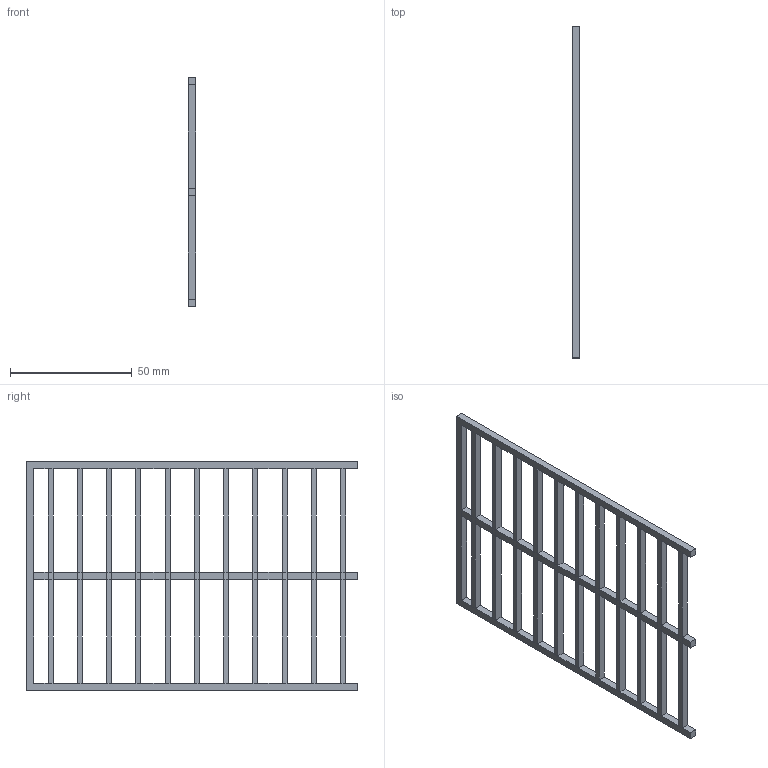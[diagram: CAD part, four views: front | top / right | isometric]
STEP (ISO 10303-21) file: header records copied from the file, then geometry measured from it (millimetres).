
FILE_DESCRIPTION(('Open CASCADE Model'),'2;1');
FILE_NAME('Open CASCADE Shape Model','2026-11-03T04:29:36',('Author'),( 'Open CASCADE'),'Open CASCADE STEP processor 7.8','Open CASCADE 7.8' ,'Unknown');
FILE_SCHEMA(('AUTOMOTIVE_DESIGN { 1 0 10303 214 1 1 1 1 }'));
Length unit declared in the file: millimetre
Products named in the file (1): Open CASCADE STEP translator 7.8 42
Bounding box: 3 x 136 x 94 mm (x, y, z)
Volume: 10047 mm3; surface area: 15020 mm2
Topology: 1 solids, 1 shells, 192 faces, 434 edges, 200 vertices
Faces by surface type: plane 192
Entity records: 10634 total; most frequent: CARTESIAN_POINT 1695, DIRECTION 1688, LINE 1302, VECTOR 1302, ORIENTED_EDGE 868, PCURVE 868, DEFINITIONAL_REPRESENTATION 868, EDGE_CURVE 434
